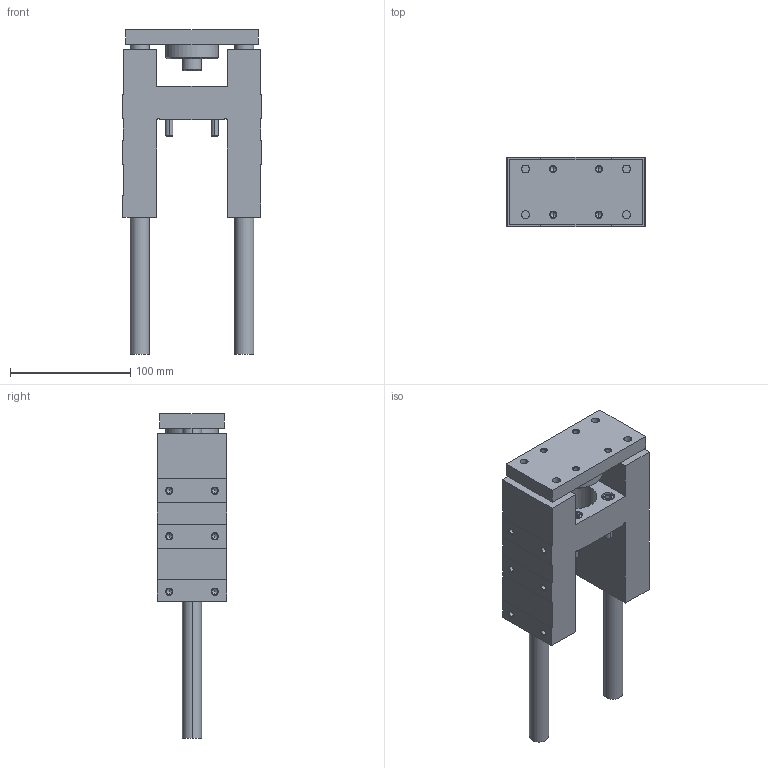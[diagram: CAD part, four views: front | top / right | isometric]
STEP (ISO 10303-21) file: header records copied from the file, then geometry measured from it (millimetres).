
FILE_DESCRIPTION (( 'STEP AP203' ), '1' );
FILE_NAME ('GB40-100.STEP', '2020-04-24T11:17:39', ( '' ), ( '' ), 'SwSTEP 2.0', 'SolidWorks 2019', '' );
FILE_SCHEMA (( 'CONFIG_CONTROL_DESIGN' ));
Length unit declared in the file: millimetre
Products named in the file (1): GB40-100
Bounding box: 115 x 58 x 270 mm (x, y, z)
Volume: 651822.4 mm3; surface area: 132526 mm2
Topology: 6 solids, 6 shells, 357 faces, 802 edges, 456 vertices
Faces by surface type: cone 142, plane 113, cylinder 102
Entity records: 10283 total; most frequent: CARTESIAN_POINT 2222, DIRECTION 1796, ORIENTED_EDGE 1532, EDGE_CURVE 766, AXIS2_PLACEMENT_3D 700, VERTEX_POINT 456, EDGE_LOOP 422, LINE 396
